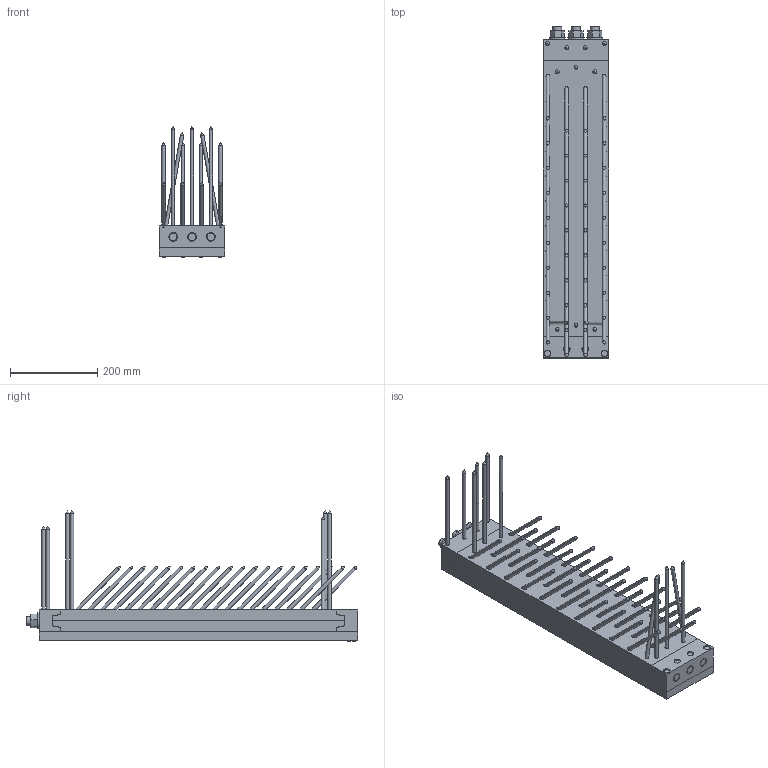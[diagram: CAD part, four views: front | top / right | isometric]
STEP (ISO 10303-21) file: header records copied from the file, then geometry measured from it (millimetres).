
FILE_DESCRIPTION(/* description */ ('Unknown'),/* implementation_level */ '2;1');
FILE_NAME(/* name */ 'MEGANT_730x150x50_Holz-Stahl-Anschluss_Sichtbar',/* time_stamp */ '2023-01-11T09:13:08+01:00',/* author */ ('Unknown'),/* organization */ ('Unknown'),/* preprocessor_version */ 'ST-DEVELOPER v16.7',/* originating_system */ 'Solid Edge',/* authorisation */ 'Unknown');
FILE_SCHEMA (('AUTOMOTIVE_DESIGN {1 0 10303 214 3 1 1}'));
Length unit declared in the file: millimetre
Products named in the file (18): MEGANT_730x150x50_Holz-Stahl-Anschluss_Sichtbar; Verbinderplatte_670x150x25_HT_Stahl-Anschluss_18xM10x30; Verbinderplatte_670x150x25_Stahlanschluss_18xM10x30; SK_M10x30; Stahlplatte_150x730x20_18xM10_Bohrungen_4xM8; Spannbacke_unten_150x50x50_Stahl-Anschluss_4xSK_M8x70; Spannbacke_unten_150x50x50; SK_M8x70; Verbinderplatte_670x150x25_NT; SK_Schraube_8x240; Verbinderplatte_670x150x25; SK_Schraube_8x160; Spannbacke_oben_150x50x50_NT; Spannbacke_oben_150x50x50; Gewindestange_M20_L760; Beilagscheibe_M20; Mutter_M20
Assembly tree (89 placements, depth 3):
  MEGANT_730x150x50_Holz-Stahl-Anschluss_Sichtbar
    Verbinderplatte_670x150x25_HT_Stahl-Anschluss_18xM10x30
      Verbinderplatte_670x150x25_Stahlanschluss_18xM10x30
      SK_M10x30  x18
    Stahlplatte_150x730x20_18xM10_Bohrungen_4xM8
    Spannbacke_unten_150x50x50_Stahl-Anschluss_4xSK_M8x70
      Spannbacke_unten_150x50x50
      SK_M8x70  x4
    Verbinderplatte_670x150x25_NT
      SK_Schraube_8x240  x8
      Verbinderplatte_670x150x25
      SK_Schraube_8x160  x40
    Spannbacke_oben_150x50x50_NT
      SK_Schraube_8x240  x4
      Spannbacke_oben_150x50x50
    Gewindestange_M20_L760  x3
      Gewindestange_M20_L760
      Beilagscheibe_M20
      Mutter_M20
Bounding box: 150 x 760 x 299.5 mm (x, y, z)
Volume: 7504522.1 mm3; surface area: 1452557.8 mm2
Topology: 88 solids, 88 shells, 1063 faces, 2381 edges, 1515 vertices
Faces by surface type: cylinder 446, plane 341, cone 264, bspline 12
Full cylindrical faces by diameter (mm): 6.647 x8, 8 x56, 8.3 x4, 8.376 x36, 8.5 x98, 10 x18, 10.2 x18, 14 x4, 15 x150, 17.294 x6, 20 x39, 21 x6, 37 x3
Entity records: 18323 total; most frequent: CARTESIAN_POINT 3281, DIRECTION 3014, ORIENTED_EDGE 2044, FACE_BOUND 1420, EDGE_LOOP 1418, AXIS2_PLACEMENT_3D 1345, EDGE_CURVE 1022, VERTEX_POINT 892
